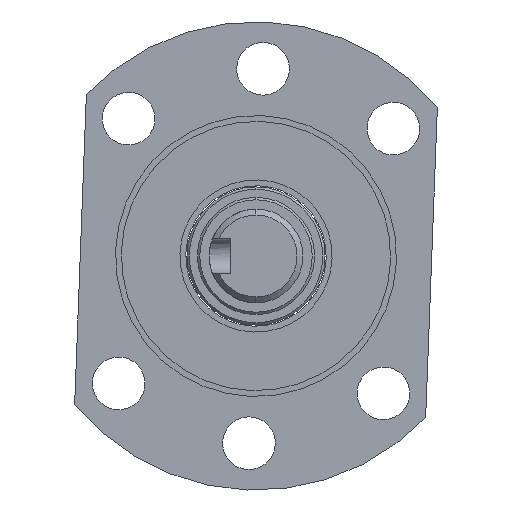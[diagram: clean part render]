
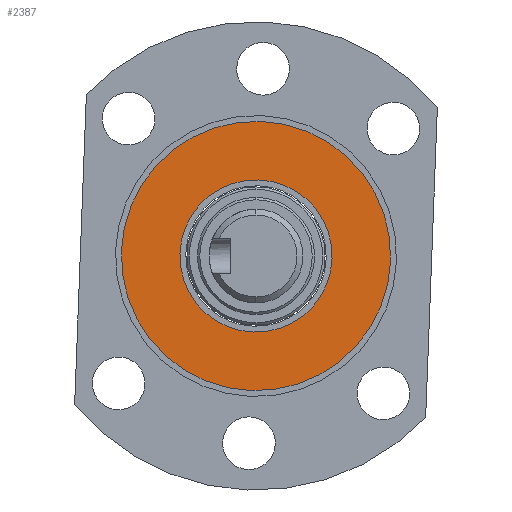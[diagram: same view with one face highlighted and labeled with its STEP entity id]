
A CAD part, left-side view. The second image highlights one B-rep face of the part: STEP entity #2387.
In plain terms, the highlighted planar face has unit normal (-1, 0, 0).
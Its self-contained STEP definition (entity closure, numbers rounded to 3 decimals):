
#32 = VERTEX_POINT ( 'NONE', #1340 ) ;
#49 = FACE_OUTER_BOUND ( 'NONE', #73, .T. ) ;
#73 = EDGE_LOOP ( 'NONE', ( #248, #1839 ) ) ;
#78 = DIRECTION ( 'NONE',  ( 0., 0., -1. ) ) ;
#98 = CARTESIAN_POINT ( 'NONE',  ( -45.5, 0., 0. ) ) ;
#159 = EDGE_CURVE ( 'NONE', #376, #1313, #1766, .T. ) ;
#195 = DIRECTION ( 'NONE',  ( 1., 0., 0. ) ) ;
#200 = VERTEX_POINT ( 'NONE', #1236 ) ;
#225 = FACE_BOUND ( 'NONE', #1614, .T. ) ;
#226 = CARTESIAN_POINT ( 'NONE',  ( -45.5, 0., -11.5 ) ) ;
#248 = ORIENTED_EDGE ( 'NONE', *, *, #159, .F. ) ;
#376 = VERTEX_POINT ( 'NONE', #226 ) ;
#407 = DIRECTION ( 'NONE',  ( 1., 0., 0. ) ) ;
#604 = DIRECTION ( 'NONE',  ( 1., 0., 0. ) ) ;
#761 = CARTESIAN_POINT ( 'NONE',  ( -45.5, 0., 0. ) ) ;
#782 = AXIS2_PLACEMENT_3D ( 'NONE', #98, #1400, #1078 ) ;
#945 = DIRECTION ( 'NONE',  ( 0., 0., -1. ) ) ;
#991 = EDGE_CURVE ( 'NONE', #1313, #376, #1265, .T. ) ;
#1078 = DIRECTION ( 'NONE',  ( 0., 0., -1. ) ) ;
#1201 = ORIENTED_EDGE ( 'NONE', *, *, #2314, .T. ) ;
#1236 = CARTESIAN_POINT ( 'NONE',  ( -45.5, 0., 6.5 ) ) ;
#1265 = CIRCLE ( 'NONE', #1659, 11.5 ) ;
#1313 = VERTEX_POINT ( 'NONE', #1502 ) ;
#1340 = CARTESIAN_POINT ( 'NONE',  ( -45.5, 0., -6.5 ) ) ;
#1357 = AXIS2_PLACEMENT_3D ( 'NONE', #1750, #407, #1373 ) ;
#1373 = DIRECTION ( 'NONE',  ( 0., 1., 0. ) ) ;
#1389 = CIRCLE ( 'NONE', #2114, 6.5 ) ;
#1400 = DIRECTION ( 'NONE',  ( 1., 0., 0. ) ) ;
#1502 = CARTESIAN_POINT ( 'NONE',  ( -45.5, 0., 11.5 ) ) ;
#1556 = CIRCLE ( 'NONE', #2414, 6.5 ) ;
#1614 = EDGE_LOOP ( 'NONE', ( #2363, #1201 ) ) ;
#1659 = AXIS2_PLACEMENT_3D ( 'NONE', #761, #195, #945 ) ;
#1697 = CARTESIAN_POINT ( 'NONE',  ( -45.5, 0., 0. ) ) ;
#1741 = CARTESIAN_POINT ( 'NONE',  ( -45.5, 0., 0. ) ) ;
#1750 = CARTESIAN_POINT ( 'NONE',  ( -45.5, 9., 0. ) ) ;
#1766 = CIRCLE ( 'NONE', #782, 11.5 ) ;
#1839 = ORIENTED_EDGE ( 'NONE', *, *, #991, .F. ) ;
#2070 = DIRECTION ( 'NONE',  ( 0., 0., -1. ) ) ;
#2114 = AXIS2_PLACEMENT_3D ( 'NONE', #1697, #2422, #2070 ) ;
#2116 = PLANE ( 'NONE',  #1357 ) ;
#2314 = EDGE_CURVE ( 'NONE', #200, #32, #1389, .T. ) ;
#2363 = ORIENTED_EDGE ( 'NONE', *, *, #2431, .T. ) ;
#2387 = ADVANCED_FACE ( 'NONE', ( #225, #49 ), #2116, .F. ) ;
#2414 = AXIS2_PLACEMENT_3D ( 'NONE', #1741, #604, #78 ) ;
#2422 = DIRECTION ( 'NONE',  ( 1., 0., 0. ) ) ;
#2431 = EDGE_CURVE ( 'NONE', #32, #200, #1556, .T. ) ;
